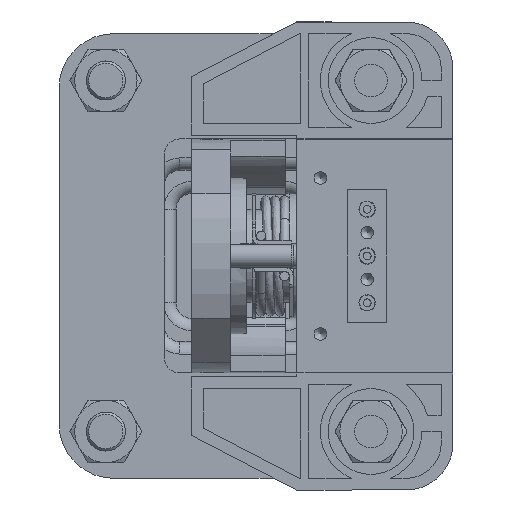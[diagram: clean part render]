
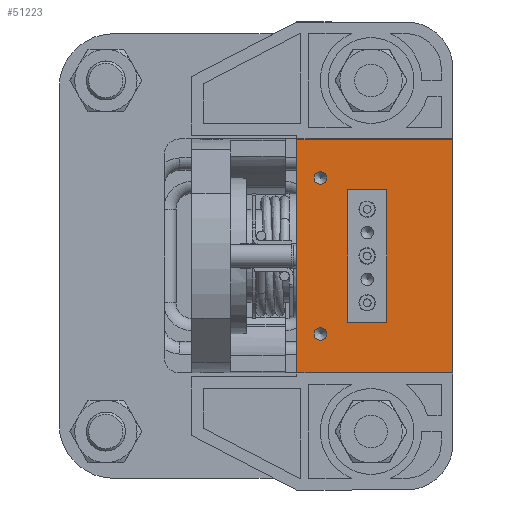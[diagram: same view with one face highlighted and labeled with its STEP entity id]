
A CAD part, front view. The second image highlights one B-rep face of the part: STEP entity #51223.
In plain terms, the highlighted planar face has unit normal (0, -1, 0).
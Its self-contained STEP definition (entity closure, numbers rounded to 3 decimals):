
#710 = DIRECTION ( 'NONE',  ( 0., 0., -1. ) ) ;
#790 = CARTESIAN_POINT ( 'NONE',  ( 11.5, -25., 8.5 ) ) ;
#919 = CARTESIAN_POINT ( 'NONE',  ( 20., -25., 15. ) ) ;
#1024 = VERTEX_POINT ( 'NONE', #13910 ) ;
#1063 = CARTESIAN_POINT ( 'NONE',  ( 20., -25., -15. ) ) ;
#1871 = CARTESIAN_POINT ( 'NONE',  ( 11.5, -25., -8.5 ) ) ;
#1895 = ORIENTED_EDGE ( 'NONE', *, *, #50200, .F. ) ;
#3153 = ORIENTED_EDGE ( 'NONE', *, *, #48490, .F. ) ;
#3684 = DIRECTION ( 'NONE',  ( -1., 0., 0. ) ) ;
#5114 = LINE ( 'NONE', #31239, #34166 ) ;
#5830 = CARTESIAN_POINT ( 'NONE',  ( 20., -25., 15. ) ) ;
#7334 = VERTEX_POINT ( 'NONE', #27260 ) ;
#7605 = VECTOR ( 'NONE', #710, 1000. ) ;
#7648 = CARTESIAN_POINT ( 'NONE',  ( 3., -25., 10. ) ) ;
#8625 = DIRECTION ( 'NONE',  ( 0., 1., 0. ) ) ;
#9609 = VERTEX_POINT ( 'NONE', #31095 ) ;
#9709 = EDGE_LOOP ( 'NONE', ( #31379, #12052, #18485, #20234 ) ) ;
#9914 = VECTOR ( 'NONE', #50610, 1000. ) ;
#10599 = VECTOR ( 'NONE', #3684, 1000. ) ;
#11647 = DIRECTION ( 'NONE',  ( 0., 0., -1. ) ) ;
#12052 = ORIENTED_EDGE ( 'NONE', *, *, #35969, .F. ) ;
#13251 = CARTESIAN_POINT ( 'NONE',  ( 0., -25., 15. ) ) ;
#13539 = AXIS2_PLACEMENT_3D ( 'NONE', #7648, #35360, #11647 ) ;
#13630 = LINE ( 'NONE', #14029, #9914 ) ;
#13910 = CARTESIAN_POINT ( 'NONE',  ( 0., -25., 15. ) ) ;
#14029 = CARTESIAN_POINT ( 'NONE',  ( 20., -25., 15. ) ) ;
#14139 = EDGE_CURVE ( 'NONE', #7334, #1024, #39232, .T. ) ;
#14677 = FACE_OUTER_BOUND ( 'NONE', #9709, .T. ) ;
#15524 = CARTESIAN_POINT ( 'NONE',  ( 3., -25., 9.2 ) ) ;
#15931 = FACE_BOUND ( 'NONE', #22724, .T. ) ;
#17241 = DIRECTION ( 'NONE',  ( 0., 0., -1. ) ) ;
#17343 = AXIS2_PLACEMENT_3D ( 'NONE', #17593, #45235, #21575 ) ;
#17588 = VERTEX_POINT ( 'NONE', #20877 ) ;
#17593 = CARTESIAN_POINT ( 'NONE',  ( 3., -25., -10. ) ) ;
#18197 = CIRCLE ( 'NONE', #17343, 0.8 ) ;
#18485 = ORIENTED_EDGE ( 'NONE', *, *, #18569, .F. ) ;
#18569 = EDGE_CURVE ( 'NONE', #7334, #34216, #13630, .T. ) ;
#20102 = EDGE_LOOP ( 'NONE', ( #32160 ) ) ;
#20234 = ORIENTED_EDGE ( 'NONE', *, *, #14139, .T. ) ;
#20877 = CARTESIAN_POINT ( 'NONE',  ( 6.5, -25., -8.5 ) ) ;
#21371 = DIRECTION ( 'NONE',  ( 1., 0., 0. ) ) ;
#21575 = DIRECTION ( 'NONE',  ( 0., 0., 1. ) ) ;
#22207 = LINE ( 'NONE', #13251, #43231 ) ;
#22434 = EDGE_LOOP ( 'NONE', ( #3153 ) ) ;
#22561 = VERTEX_POINT ( 'NONE', #37439 ) ;
#22724 = EDGE_LOOP ( 'NONE', ( #42564, #45988, #1895, #30497 ) ) ;
#24597 = EDGE_CURVE ( 'NONE', #30720, #9609, #36161, .T. ) ;
#25679 = VERTEX_POINT ( 'NONE', #15524 ) ;
#27260 = CARTESIAN_POINT ( 'NONE',  ( 20., -25., 15. ) ) ;
#27571 = CARTESIAN_POINT ( 'NONE',  ( 6.5, -25., 8.5 ) ) ;
#30226 = VECTOR ( 'NONE', #21371, 1000. ) ;
#30497 = ORIENTED_EDGE ( 'NONE', *, *, #45829, .F. ) ;
#30720 = VERTEX_POINT ( 'NONE', #39477 ) ;
#30903 = CARTESIAN_POINT ( 'NONE',  ( 3., -25., -9.2 ) ) ;
#31095 = CARTESIAN_POINT ( 'NONE',  ( 11.5, -25., 8.5 ) ) ;
#31239 = CARTESIAN_POINT ( 'NONE',  ( 20., -25., -15. ) ) ;
#31379 = ORIENTED_EDGE ( 'NONE', *, *, #50149, .T. ) ;
#32160 = ORIENTED_EDGE ( 'NONE', *, *, #40824, .T. ) ;
#32504 = DIRECTION ( 'NONE',  ( 0., 0., 1. ) ) ;
#32868 = LINE ( 'NONE', #39084, #10599 ) ;
#33543 = AXIS2_PLACEMENT_3D ( 'NONE', #919, #8625, #32504 ) ;
#33811 = DIRECTION ( 'NONE',  ( -1., 0., 0. ) ) ;
#34166 = VECTOR ( 'NONE', #35251, 1000. ) ;
#34216 = VERTEX_POINT ( 'NONE', #1063 ) ;
#35251 = DIRECTION ( 'NONE',  ( -1., 0., 0. ) ) ;
#35360 = DIRECTION ( 'NONE',  ( 0., -1., 0. ) ) ;
#35969 = EDGE_CURVE ( 'NONE', #34216, #22561, #5114, .T. ) ;
#36136 = CARTESIAN_POINT ( 'NONE',  ( 6.5, -25., 8.5 ) ) ;
#36161 = LINE ( 'NONE', #790, #42916 ) ;
#37439 = CARTESIAN_POINT ( 'NONE',  ( 0., -25., -15. ) ) ;
#37837 = CIRCLE ( 'NONE', #13539, 0.8 ) ;
#38242 = VECTOR ( 'NONE', #33811, 1000. ) ;
#39084 = CARTESIAN_POINT ( 'NONE',  ( 11.5, -25., 8.5 ) ) ;
#39156 = LINE ( 'NONE', #36136, #7605 ) ;
#39232 = LINE ( 'NONE', #5830, #38242 ) ;
#39477 = CARTESIAN_POINT ( 'NONE',  ( 11.5, -25., -8.5 ) ) ;
#40824 = EDGE_CURVE ( 'NONE', #43632, #43632, #18197, .T. ) ;
#42564 = ORIENTED_EDGE ( 'NONE', *, *, #46904, .F. ) ;
#42571 = VERTEX_POINT ( 'NONE', #27571 ) ;
#42916 = VECTOR ( 'NONE', #47582, 1000. ) ;
#43231 = VECTOR ( 'NONE', #17241, 1000. ) ;
#43632 = VERTEX_POINT ( 'NONE', #30903 ) ;
#45235 = DIRECTION ( 'NONE',  ( 0., 1., 0. ) ) ;
#45829 = EDGE_CURVE ( 'NONE', #42571, #17588, #39156, .T. ) ;
#45988 = ORIENTED_EDGE ( 'NONE', *, *, #24597, .F. ) ;
#46207 = FACE_BOUND ( 'NONE', #20102, .T. ) ;
#46904 = EDGE_CURVE ( 'NONE', #9609, #42571, #32868, .T. ) ;
#47457 = FACE_BOUND ( 'NONE', #22434, .T. ) ;
#47582 = DIRECTION ( 'NONE',  ( 0., 0., 1. ) ) ;
#48217 = PLANE ( 'NONE',  #33543 ) ;
#48490 = EDGE_CURVE ( 'NONE', #25679, #25679, #37837, .T. ) ;
#50149 = EDGE_CURVE ( 'NONE', #1024, #22561, #22207, .T. ) ;
#50200 = EDGE_CURVE ( 'NONE', #17588, #30720, #51288, .T. ) ;
#50610 = DIRECTION ( 'NONE',  ( 0., 0., -1. ) ) ;
#51223 = ADVANCED_FACE ( 'NONE', ( #15931, #14677, #46207, #47457 ), #48217, .F. ) ;
#51288 = LINE ( 'NONE', #1871, #30226 ) ;
